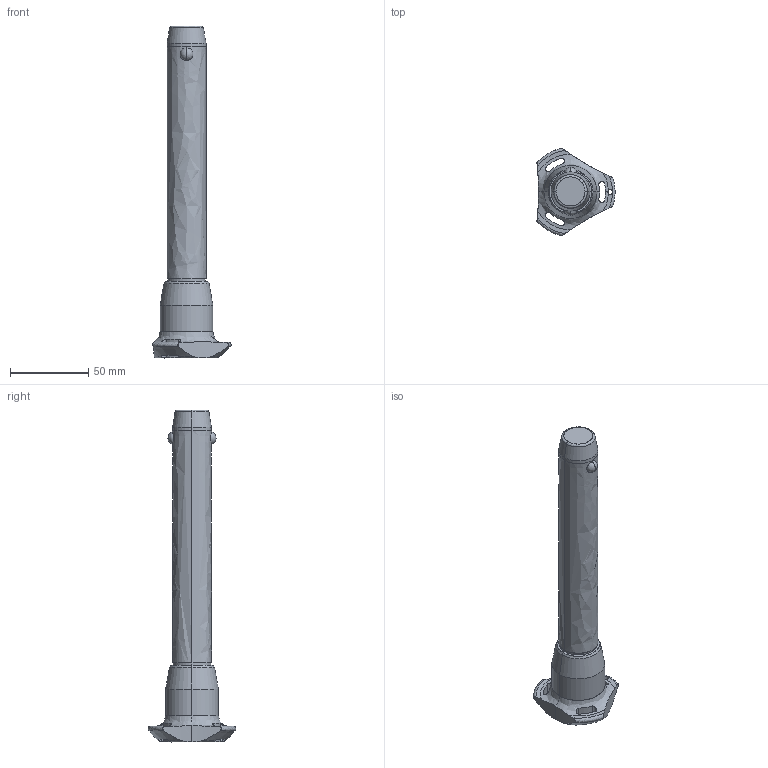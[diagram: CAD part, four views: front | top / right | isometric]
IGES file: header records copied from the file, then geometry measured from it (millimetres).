
Start section: SolidWorks IGES file using analytic representation for surfaces
Global section: file name: C:\Users\ianosborn\Desktop\33060_v2\33060.BK_v2_20240910_IGES\33060.W0930.igs; native system: SolidWorks 2019; preprocessor: SolidWorks 2019; author: IanOsborn; date: 240910.202443; units: millimetre
Bounding box: 50.03 x 56.02 x 212.7 mm (x, y, z)
Surface area: 22445.4 mm2 (no closed solid volume)
Topology: 0 solids, 0 shells, 68 faces, 1382 edges, 1378 vertices
Faces by surface type: revolution 52, bspline 16
